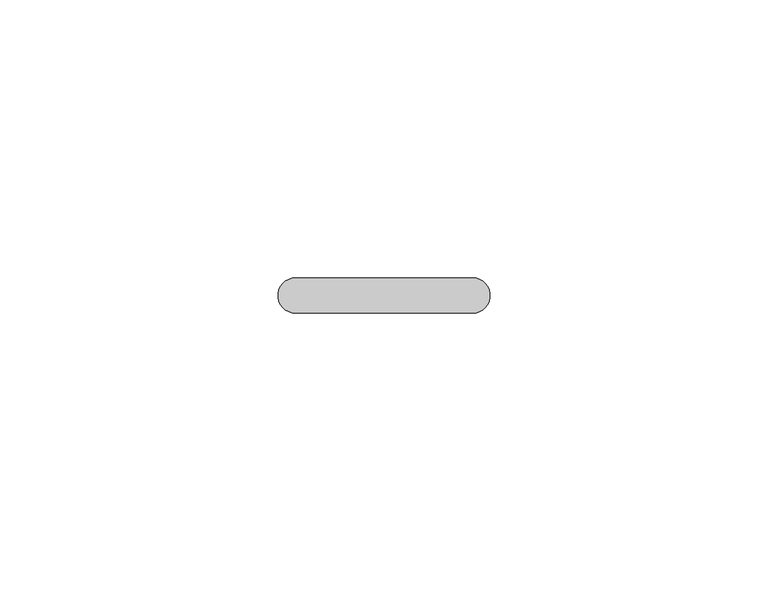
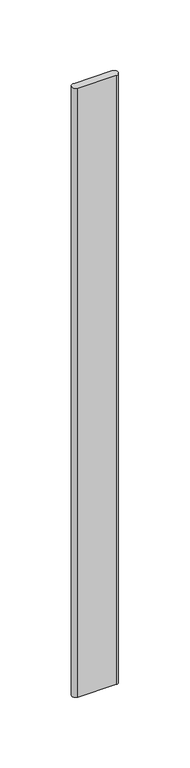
"""IFC4 building model written with IfcOpenShell, lengths in millimetres: proxy geometry, Durabond Generic Model Insulation Adhesive Flat : Durabond Generic Model Insulation Adhesive Flat."""

import ifcopenshell
import ifcopenshell.guid

model = None  # the IFC model being written
_history = None  # IfcOwnerHistory: only IFC2X3 demands one
_inside = {}  # id of a spatial element -> (the spatial element, [elements in it])
_under = {}  # id of a project, library or spatial element -> (it, [spatial elements below it])
_declared = {}  # id of a project -> (the project, [libraries it declares])
_typed = {}  # id of a type object -> (the type object, [elements of that type])
_made_of = {}  # id of a material, layer set ... -> (it, [elements and type objects made of it])


def new_model(schema):
    """Start an empty IFC model of exactly this schema.

    Asked for "IFC4X3", IfcOpenShell would pick the latest addendum, in which some entities
    have other attributes; the version numbers below select the first issue.
    IFC2X3 requires an IfcOwnerHistory on every rooted entity: one is made here for all.
    """
    global model, _history
    if schema == "IFC4X3":
        model = ifcopenshell.file(schema_version=(4, 3, 0, 0))
    else:
        model = ifcopenshell.file(schema=schema)
    _inside.clear()
    _under.clear()
    _declared.clear()
    _typed.clear()
    _made_of.clear()
    _history = None
    if model.schema == "IFC2X3":
        org = make("IfcOrganization", Name="unknown")
        user = make(
            "IfcPersonAndOrganization",
            ThePerson=make("IfcPerson", FamilyName="unknown"),
            TheOrganization=org,
        )
        app = make(
            "IfcApplication",
            ApplicationDeveloper=org,
            Version="unknown",
            ApplicationFullName="unknown",
            ApplicationIdentifier="unknown",
        )
        _history = make(
            "IfcOwnerHistory",
            OwningUser=user,
            OwningApplication=app,
            ChangeAction="ADDED",
            CreationDate=0,
        )
    return model


def make(cls, **values):
    """One entity of the class cls with the attributes given. An attribute that is None is left unset."""
    return model.create_entity(
        cls, **{name: value for name, value in values.items() if value is not None}
    )


def rooted(cls, **values):
    """An entity with a GlobalId (a new one), such as an element, a storey or a relation."""
    return make(cls, GlobalId=ifcopenshell.guid.new(), OwnerHistory=_history, **values)


def si_unit(unit_type, name, prefix=None):
    """IfcSIUnit, for example si_unit("LENGTHUNIT", "METRE", prefix="MILLI")."""
    return make("IfcSIUnit", UnitType=unit_type, Prefix=prefix, Name=name)


def assignment(units):
    """IfcUnitAssignment: the units of a project."""
    return None if units is None else make("IfcUnitAssignment", Units=units)


def point(xyz):
    """IfcCartesianPoint."""
    return None if xyz is None else make("IfcCartesianPoint", Coordinates=xyz)


def direction(xyz):
    """IfcDirection."""
    return None if xyz is None else make("IfcDirection", DirectionRatios=xyz)


def frame(location, z_axis=None, x_axis=None):
    """IfcAxis2Placement3D, a coordinate frame: its origin and axes. An axis left out is left unset."""
    return make(
        "IfcAxis2Placement3D",
        Location=point(location),
        Axis=direction(z_axis),
        RefDirection=direction(x_axis),
    )


def frame_2d(location, x_axis=None):
    """IfcAxis2Placement2D, a coordinate frame in the plane: its origin and x axis."""
    return make(
        "IfcAxis2Placement2D", Location=point(location), RefDirection=direction(x_axis)
    )


def origin():
    """The frame at (0, 0, 0) with its axes left unset."""
    return frame((0.0, 0.0, 0.0))


def origin_with_axes():
    """The frame at (0, 0, 0) with the z axis (0, 0, 1) and the x axis (1, 0, 0) written out."""
    return frame((0.0, 0.0, 0.0), z_axis=(0.0, 0.0, 1.0), x_axis=(1.0, 0.0, 0.0))


def place(relative_to, where):
    """IfcLocalPlacement: puts the frame where relative to a parent placement (None: the world)."""
    return make(
        "IfcLocalPlacement", PlacementRelTo=relative_to, RelativePlacement=where
    )


def context(
    kind, dimensions, precision=None, world=None, true_north=None, identifier=None
):
    """IfcGeometricRepresentationContext, for example the 3D "Model" context."""
    return make(
        "IfcGeometricRepresentationContext",
        ContextIdentifier=identifier,
        ContextType=kind,
        CoordinateSpaceDimension=dimensions,
        Precision=precision,
        WorldCoordinateSystem=world,
        TrueNorth=true_north,
    )


def project(units=None, contexts=None):
    """IfcProject with its units and contexts."""
    return rooted(
        "IfcProject",
        Name="project",
        RepresentationContexts=contexts,
        UnitsInContext=assignment(units),
    )


def spatial(cls, under=None, at=None, **own):
    """A site, building, storey or space (cls), placed at a placement, below another one or the project."""
    s = rooted(cls, ObjectPlacement=at, **own)
    if under is not None:
        _under.setdefault(under.id(), (under, []))[1].append(s)
    return s


def polyline(points):
    """IfcPolyline through the points."""
    return make("IfcPolyline", Points=[point(p) for p in points])


def circle_curve(where, radius):
    """IfcCircle in the frame where."""
    return make("IfcCircle", Position=where, Radius=radius)


def trimmed(basis, trim1, trim2, sense, master):
    """IfcTrimmedCurve: the piece of a basis curve between two trims."""
    return make(
        "IfcTrimmedCurve",
        BasisCurve=basis,
        Trim1=trim1,
        Trim2=trim2,
        SenseAgreement=sense,
        MasterRepresentation=master,
    )


def segment(curve, same_sense, transition):
    """IfcCompositeCurveSegment."""
    return make(
        "IfcCompositeCurveSegment",
        Transition=transition,
        SameSense=same_sense,
        ParentCurve=curve,
    )


def composite_curve(segments, self_intersect=None):
    """IfcCompositeCurve: segments joined end to end."""
    return make("IfcCompositeCurve", Segments=segments, SelfIntersect=self_intersect)


def outline(outer, holes=None, kind="AREA"):
    """IfcArbitraryClosedProfileDef: a profile drawn as a closed curve; with holes, ...WithVoids."""
    if holes is None:
        return make("IfcArbitraryClosedProfileDef", ProfileType=kind, OuterCurve=outer)
    return make(
        "IfcArbitraryProfileDefWithVoids",
        ProfileType=kind,
        OuterCurve=outer,
        InnerCurves=holes,
    )


def extrude(swept, where, along, depth):
    """IfcExtrudedAreaSolid: the profile swept, set in the frame where, extruded along a direction by depth."""
    return make(
        "IfcExtrudedAreaSolid",
        SweptArea=swept,
        Position=where,
        ExtrudedDirection=direction(along),
        Depth=depth,
    )


def shape(context_of_items, identifier, shape_type, items):
    """IfcShapeRepresentation: the items that make up one representation, for example the "Body"."""
    return make(
        "IfcShapeRepresentation",
        ContextOfItems=context_of_items,
        RepresentationIdentifier=identifier,
        RepresentationType=shape_type,
        Items=items,
    )


def source(mapping_origin, context_of_items, identifier, shape_type, items):
    """IfcRepresentationMap: a shape defined once, which mapped items show again and again."""
    return make(
        "IfcRepresentationMap",
        MappingOrigin=mapping_origin,
        MappedRepresentation=shape(context_of_items, identifier, shape_type, items),
    )


def transform(
    local_origin,
    x_axis=None,
    y_axis=None,
    z_axis=None,
    scale=None,
    scale2=None,
    scale3=None,
    uniform=True,
):
    """IfcCartesianTransformationOperator3D, or its non-uniform kind. x_axis, y_axis, z_axis: its Axis1, 2, 3."""
    if uniform:
        return make(
            "IfcCartesianTransformationOperator3D",
            Axis1=direction(x_axis),
            Axis2=direction(y_axis),
            LocalOrigin=point(local_origin),
            Scale=scale,
            Axis3=direction(z_axis),
        )
    return make(
        "IfcCartesianTransformationOperator3DnonUniform",
        Axis1=direction(x_axis),
        Axis2=direction(y_axis),
        LocalOrigin=point(local_origin),
        Scale=scale,
        Axis3=direction(z_axis),
        Scale2=scale2,
        Scale3=scale3,
    )


def mapped(mapping_source, mapping_target):
    """IfcMappedItem: shows the shape of a source again, moved by a transform."""
    return make(
        "IfcMappedItem", MappingSource=mapping_source, MappingTarget=mapping_target
    )


def made_of(thing, what):
    """Note that an element or type object is made of a material, layer set ...; save() writes the relation."""
    if what is not None:
        _made_of.setdefault(what.id(), (what, []))[1].append(thing)
    return thing


def element(
    cls,
    number,
    at=None,
    inside=None,
    cuts=None,
    type_object=None,
    material=None,
    context=None,
    identifier="Body",
    shape_type=None,
    held_by="IfcProductDefinitionShape",
    body=None,
    shapes=None,
    **own,
):
    """One element of the class cls, such as IfcWall. Its Tag is "e" and its number.

    at: its placement. inside: the storey or other place that contains it. cuts: it is an
    opening in that element (IfcRelVoidsElement). A single representation is given by context,
    identifier, shape_type and body (its items); several are given by shapes. held_by: the class
    of the entity that holds the representations. save() writes the other relations.
    """
    e = rooted(cls, Tag="e%d" % number, ObjectPlacement=at, **own)
    if body is not None:
        shapes = [shape(context, identifier, shape_type, body)]
    if shapes is not None:
        e.Representation = make(held_by, Representations=shapes)
    if inside is not None:
        _inside.setdefault(inside.id(), (inside, []))[1].append(e)
    if cuts is not None:
        rooted(
            "IfcRelVoidsElement", RelatingBuildingElement=cuts, RelatedOpeningElement=e
        )
    if type_object is not None:
        _typed.setdefault(type_object.id(), (type_object, []))[1].append(e)
    return made_of(e, material)


def aggregate(whole, parts):
    """IfcRelAggregates: a whole, such as a stair, and the parts it consists of."""
    return rooted("IfcRelAggregates", RelatingObject=whole, RelatedObjects=parts)


def save(model, path):
    """Write the relations noted so far, then the file.

    IfcRelAggregates (storeys below a building ...), IfcRelContainedInSpatialStructure (elements
    in a storey), IfcRelDefinesByType, IfcRelAssociatesMaterial and IfcRelDeclares: one each for
    every whole, place, type object, material and project.
    """
    for whole, parts in _under.values():
        aggregate(whole, parts)
    for where, things in _inside.values():
        rooted(
            "IfcRelContainedInSpatialStructure",
            RelatedElements=things,
            RelatingStructure=where,
        )
    for kind, things in _typed.values():
        rooted("IfcRelDefinesByType", RelatedObjects=things, RelatingType=kind)
    for what, things in _made_of.values():
        rooted("IfcRelAssociatesMaterial", RelatedObjects=things, RelatingMaterial=what)
    for by, libraries in _declared.values():
        rooted("IfcRelDeclares", RelatingContext=by, RelatedDefinitions=libraries)
    model.write(path)


def generic_models_91a65217(model_context):
    return source(origin(), model_context, "Body", "SweptSolid", [
        extrude(outline(composite_curve([segment(polyline([(15.875, -3.175), (-15.875, -3.175)]), True, "CONTINUOUS"), segment(trimmed(circle_curve(frame_2d((-15.875, 0.0)), 3.175), [point((-15.875, -3.175))], [point((-15.875, 3.175))], False, "CARTESIAN"), True, "CONTINUOUS"), segment(polyline([(-15.875, 3.175), (15.875, 3.175)]), True, "CONTINUOUS"), segment(trimmed(circle_curve(frame_2d((15.875, 0.0)), 3.175), [point((15.875, 3.175))], [point((15.875, -3.175))], False, "CARTESIAN"), True, "CONTINUOUS")], self_intersect=False)), origin_with_axes(), (0.0, 0.0, 1.0), 533.4),
    ])


if __name__ == "__main__":
    model = new_model("IFC4")
    model_context = context("Model", 3, world=origin())
    ifc_project = project(units=[si_unit("LENGTHUNIT", "METRE", prefix="MILLI")], contexts=[model_context])
    site = spatial("IfcSite", under=ifc_project)
    building = spatial("IfcBuilding", under=site)
    placement = place(None, origin())
    generic_models_shape = generic_models_91a65217(model_context)
    element("IfcBuildingElementProxy", 1, Name="Durabond Generic Model Insulation Adhesive Flat : Durabond Generic Model Insulation Adhesive Flat", ObjectType="Durabond Generic Model Insulation Adhesive Flat : Durabond Generic Model Insulation Adhesive Flat", at=placement, inside=building, context=model_context, shape_type="MappedRepresentation", body=[
        mapped(generic_models_shape, transform((0.0, 0.0, 0.0), x_axis=(1.0, 0.0, 0.0), y_axis=(0.0, 1.0, 0.0), z_axis=(0.0, 0.0, 1.0))),
    ])
    save(model, "model.ifc")
